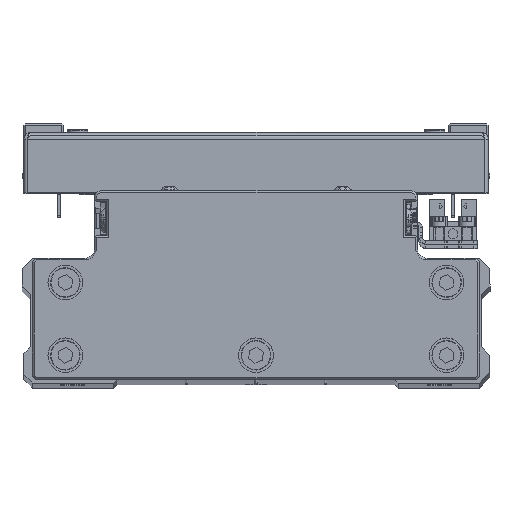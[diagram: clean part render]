
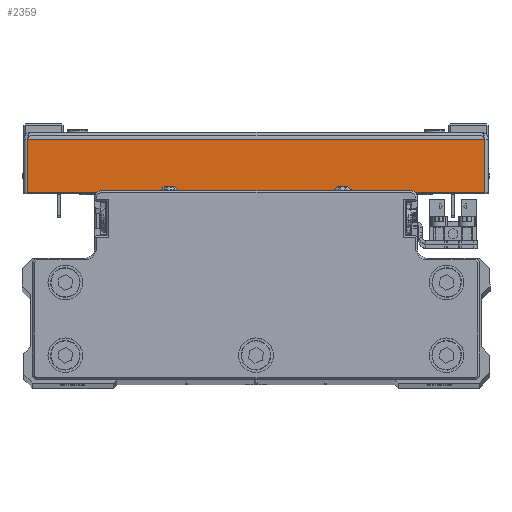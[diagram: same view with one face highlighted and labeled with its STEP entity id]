
A CAD part, top view. The second image highlights one B-rep face of the part: STEP entity #2359.
In plain terms, the highlighted planar face has unit normal (0, 0, 1) as drawn and (1, 0, 0) by its records, which use the part's own axes.
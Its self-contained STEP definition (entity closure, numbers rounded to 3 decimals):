
#15 = VERTEX_POINT ( 'NONE', #33106 ) ;
#712 = CARTESIAN_POINT ( 'NONE',  ( 75., 16.5, 65.929 ) ) ;
#1225 = EDGE_CURVE ( 'NONE', #7664, #9644, #16087, .T. ) ;
#1378 = VERTEX_POINT ( 'NONE', #20471 ) ;
#1590 = PLANE ( 'NONE',  #25886 ) ;
#2359 = ADVANCED_FACE ( 'NONE', ( #31871 ), #1590, .F. ) ;
#7664 = VERTEX_POINT ( 'NONE', #28723 ) ;
#9644 = VERTEX_POINT ( 'NONE', #712 ) ;
#10580 = CARTESIAN_POINT ( 'NONE',  ( 75., 1., 67. ) ) ;
#11955 = LINE ( 'NONE', #25436, #22467 ) ;
#12501 = DIRECTION ( 'NONE',  ( 0., 1., 0. ) ) ;
#12872 = EDGE_CURVE ( 'NONE', #15, #9644, #11955, .T. ) ;
#15085 = CARTESIAN_POINT ( 'NONE',  ( 75., 0., 0. ) ) ;
#16087 = LINE ( 'NONE', #29564, #38453 ) ;
#18631 = ORIENTED_EDGE ( 'NONE', *, *, #30104, .F. ) ;
#20471 = CARTESIAN_POINT ( 'NONE',  ( 75., 1., -65.929 ) ) ;
#22467 = VECTOR ( 'NONE', #38972, 1000. ) ;
#24055 = DIRECTION ( 'NONE',  ( 0., 0., 1. ) ) ;
#25436 = CARTESIAN_POINT ( 'NONE',  ( 75., 16.5, 0. ) ) ;
#25886 = AXIS2_PLACEMENT_3D ( 'NONE', #15085, #28561, #42087 ) ;
#28561 = DIRECTION ( 'NONE',  ( -1., 0., 0. ) ) ;
#28723 = CARTESIAN_POINT ( 'NONE',  ( 75., 1., 65.929 ) ) ;
#28729 = VECTOR ( 'NONE', #24055, 1000. ) ;
#29307 = LINE ( 'NONE', #42840, #43023 ) ;
#29564 = CARTESIAN_POINT ( 'NONE',  ( 75., 0., 65.929 ) ) ;
#30104 = EDGE_CURVE ( 'NONE', #1378, #7664, #40897, .T. ) ;
#31755 = ORIENTED_EDGE ( 'NONE', *, *, #31936, .T. ) ;
#31871 = FACE_OUTER_BOUND ( 'NONE', #33609, .T. ) ;
#31936 = EDGE_CURVE ( 'NONE', #1378, #15, #29307, .T. ) ;
#33106 = CARTESIAN_POINT ( 'NONE',  ( 75., 16.5, -65.929 ) ) ;
#33609 = EDGE_LOOP ( 'NONE', ( #18631, #31755, #37404, #34969 ) ) ;
#34969 = ORIENTED_EDGE ( 'NONE', *, *, #1225, .F. ) ;
#37404 = ORIENTED_EDGE ( 'NONE', *, *, #12872, .T. ) ;
#38453 = VECTOR ( 'NONE', #43106, 1000. ) ;
#38972 = DIRECTION ( 'NONE',  ( 0., 0., 1. ) ) ;
#40897 = LINE ( 'NONE', #10580, #28729 ) ;
#42087 = DIRECTION ( 'NONE',  ( 0., -1., 0. ) ) ;
#42840 = CARTESIAN_POINT ( 'NONE',  ( 75., 0., -65.929 ) ) ;
#43023 = VECTOR ( 'NONE', #12501, 1000. ) ;
#43106 = DIRECTION ( 'NONE',  ( 0., 1., 0. ) ) ;
